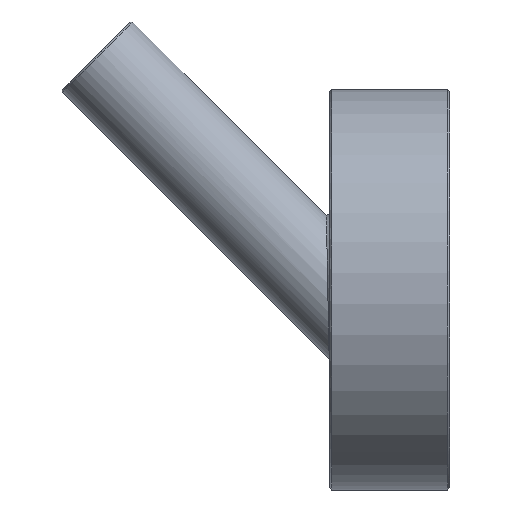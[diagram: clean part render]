
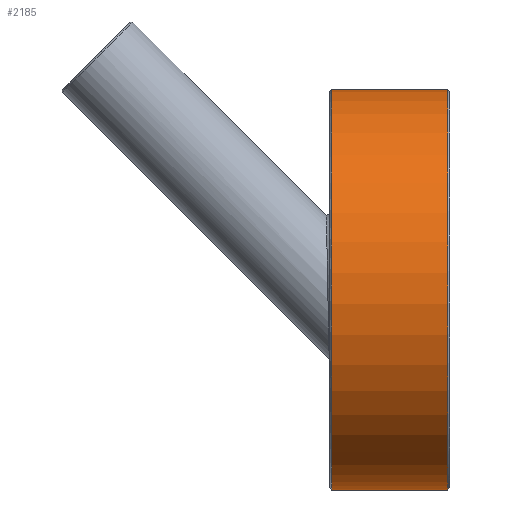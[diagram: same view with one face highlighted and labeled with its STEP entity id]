
A CAD part, left-side view. The second image highlights one B-rep face of the part: STEP entity #2185.
In plain terms, the highlighted cylindrical face has radius 20 mm (diameter 40 mm), a partial arc.
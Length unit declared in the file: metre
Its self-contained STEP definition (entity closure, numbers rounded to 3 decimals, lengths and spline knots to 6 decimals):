
#2101=VERTEX_POINT('',#2102);
#2102=CARTESIAN_POINT('',(-0.07,0.0002,-0.02));
#2108=EDGE_CURVE('',#2109,#2101,#2111,.T.);
#2109=VERTEX_POINT('',#2110);
#2110=CARTESIAN_POINT('',(-0.07,0.0118,-0.02));
#2111=LINE('',#2112,#2113);
#2112=CARTESIAN_POINT('',(-0.07,0.012,-0.02));
#2113=VECTOR('',#2114,1.0);
#2114=DIRECTION('',(0.0,-1.0,0.0));
#2163=EDGE_CURVE('',#2164,#2166,#2168,.T.);
#2164=VERTEX_POINT('',#2165);
#2165=CARTESIAN_POINT('',(-0.07,0.0118,0.02));
#2166=VERTEX_POINT('',#2167);
#2167=CARTESIAN_POINT('',(-0.07,0.0002,0.02));
#2168=LINE('',#2169,#2170);
#2169=CARTESIAN_POINT('',(-0.07,0.012,0.02));
#2170=VECTOR('',#2171,1.0);
#2171=DIRECTION('',(0.0,-1.0,0.0));
#2185=ADVANCED_FACE('',(#2191),#2186,.T.);
#2186=CYLINDRICAL_SURFACE('',#2187,0.02);
#2187=AXIS2_PLACEMENT_3D('',#2188,#2189,#2190);
#2188=CARTESIAN_POINT('',(-0.07,0.012,0.0));
#2189=DIRECTION('',(0.0,-1.0,0.0));
#2190=DIRECTION('',(0.0,0.0,-1.0));
#2191=FACE_OUTER_BOUND('',#2192,.T.);
#2192=EDGE_LOOP('',(#2193,#2194,#2201,#2202));
#2193=ORIENTED_EDGE('',*,*,#2108,.T.);
#2194=ORIENTED_EDGE('',*,*,#2196,.T.);
#2195=CARTESIAN_POINT('',(-0.07,0.0002,0.02));
#2196=EDGE_CURVE('',#2101,#2166,#2197,.F.);
#2197=(B_SPLINE_CURVE(3,(#2195,#2198,#2199,#2200),.UNSPECIFIED.,.F.,.U.)B_SPLINE_CURVE_WITH_KNOTS(
  (4,4),(0.0,1.0),.UNSPECIFIED.)BOUNDED_CURVE()CURVE()GEOMETRIC_REPRESENTATION_ITEM(
  )RATIONAL_B_SPLINE_CURVE((1.0,0.333,0.333,1.0)
  )REPRESENTATION_ITEM(''));
#2198=CARTESIAN_POINT('',(-0.11,0.0002,0.02));
#2199=CARTESIAN_POINT('',(-0.11,0.0002,-0.02));
#2200=CARTESIAN_POINT('',(-0.07,0.0002,-0.02));
#2201=ORIENTED_EDGE('',*,*,#2163,.F.);
#2202=ORIENTED_EDGE('',*,*,#2204,.T.);
#2203=CARTESIAN_POINT('',(-0.07,0.0118,0.02));
#2204=EDGE_CURVE('',#2164,#2109,#2205,.T.);
#2205=(B_SPLINE_CURVE(3,(#2203,#2206,#2207,#2208),.UNSPECIFIED.,.F.,.U.)B_SPLINE_CURVE_WITH_KNOTS(
  (4,4),(0.0,1.0),.UNSPECIFIED.)BOUNDED_CURVE()CURVE()GEOMETRIC_REPRESENTATION_ITEM(
  )RATIONAL_B_SPLINE_CURVE((1.0,0.333,0.333,1.0)
  )REPRESENTATION_ITEM(''));
#2206=CARTESIAN_POINT('',(-0.11,0.0118,0.02));
#2207=CARTESIAN_POINT('',(-0.11,0.0118,-0.02));
#2208=CARTESIAN_POINT('',(-0.07,0.0118,-0.02));
